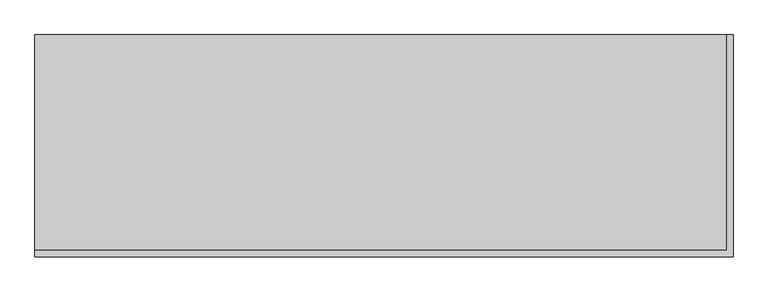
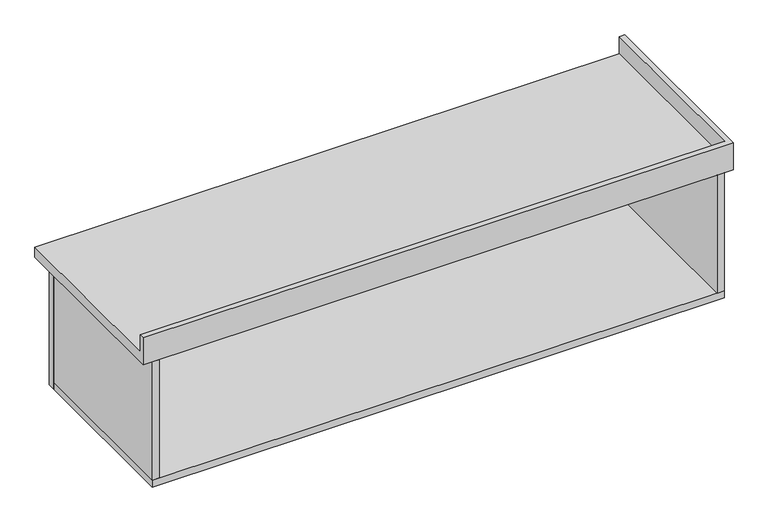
"""IFC4 building model written with IfcOpenShell, lengths in millimetres: furniture geometry, Mueble colgado 2 cajones al lado - lavabo sobreponer : MB6-mueble baño colgado-2 cajones al lado 165."""

from ifc_helpers import new_model, si_unit, frame, origin, place, context, project, spatial, polyline, outline, extrude, faceted_brep, source, transform, mapped, element, save


def furniture_b757dfe6(model_context):
    return source(origin(), model_context, "Body", "SolidModel", [
        extrude(outline(polyline([(-675.0, 490.0), (-675.0, 510.0), (120.0, 510.0), (120.0, 490.0), (-675.0, 490.0)])), frame((0.0, 0.0, 350.0), z_axis=(0.0, 0.0, 1.0), x_axis=(1.0, 0.0, 0.0)), (0.0, 0.0, 1.0), 360.0),
        faceted_brep([(935.0, 25.0, 800.0), (935.0, 25.0, 750.0), (-700.0, 25.0, 750.0), (-700.0, 25.0, 800.0), (-700.0, 10.0, 800.0), (950.0, 10.0, 800.0), (950.0, 535.0, 800.0), (935.0, 535.0, 800.0), (-700.0, 535.0, 750.0), (-700.0, 535.0, 720.0), (-700.0, 10.0, 720.0), (950.0, 10.0, 720.0), (950.0, 535.0, 720.0), (935.0, 535.0, 750.0)], [[[0, 1, 2, 3]], [[0, 3, 4, 5, 6, 7]], [[3, 2, 8, 9, 10, 4]], [[5, 4, 10, 11]], [[7, 6, 12, 9, 8, 13]], [[1, 0, 7, 13]], [[12, 6, 5, 11]], [[8, 2, 1, 13]], [[12, 11, 10, 9]]]),
        extrude(outline(polyline([(925.0, 510.0), (925.0, 490.0), (130.0, 490.0), (130.0, 510.0), (925.0, 510.0)])), frame((0.0, 0.0, 350.0), z_axis=(0.0, 0.0, 1.0), x_axis=(1.0, 0.0, 0.0)), (0.0, 0.0, 1.0), 360.0),
        extrude(outline(polyline([(925.0, 10.0), (905.0, 10.0), (905.0, 485.0), (925.0, 485.0), (925.0, 10.0)])), frame((0.0, 0.0, 370.0), z_axis=(0.0, 0.0, 1.0), x_axis=(1.0, 0.0, 0.0)), (0.0, 0.0, 1.0), 350.0),
        extrude(outline(polyline([(-655.0, 10.0), (-675.0, 10.0), (-675.0, 485.0), (-655.0, 485.0), (-655.0, 10.0)])), frame((0.0, 0.0, 370.0), z_axis=(0.0, 0.0, 1.0), x_axis=(1.0, 0.0, 0.0)), (0.0, 0.0, 1.0), 350.0),
        extrude(outline(polyline([(925.0, 485.0), (925.0, 10.0), (-675.0, 10.0), (-675.0, 485.0), (925.0, 485.0)])), frame((0.0, 0.0, 350.0), z_axis=(0.0, 0.0, 1.0), x_axis=(1.0, 0.0, 0.0)), (0.0, 0.0, 1.0), 20.0),
    ])


if __name__ == "__main__":
    model = new_model("IFC4")
    model_context = context("Model", 3, world=origin())
    ifc_project = project(units=[si_unit("LENGTHUNIT", "METRE", prefix="MILLI")], contexts=[model_context])
    site = spatial("IfcSite", under=ifc_project)
    building = spatial("IfcBuilding", under=site)
    placement = place(None, origin())
    furniture_shape = furniture_b757dfe6(model_context)
    element("IfcFurniture", 1, ObjectType="Mueble colgado 2 cajones al lado - lavabo sobreponer : MB6-mueble baño colgado-2 cajones al lado 165", at=placement, inside=building, context=model_context, shape_type="MappedRepresentation", body=[
        mapped(furniture_shape, transform((0.0, 0.0, 0.0), x_axis=(1.0, 0.0, 0.0), y_axis=(0.0, 1.0, 0.0), z_axis=(0.0, 0.0, 1.0))),
    ])
    save(model, "model.ifc")
